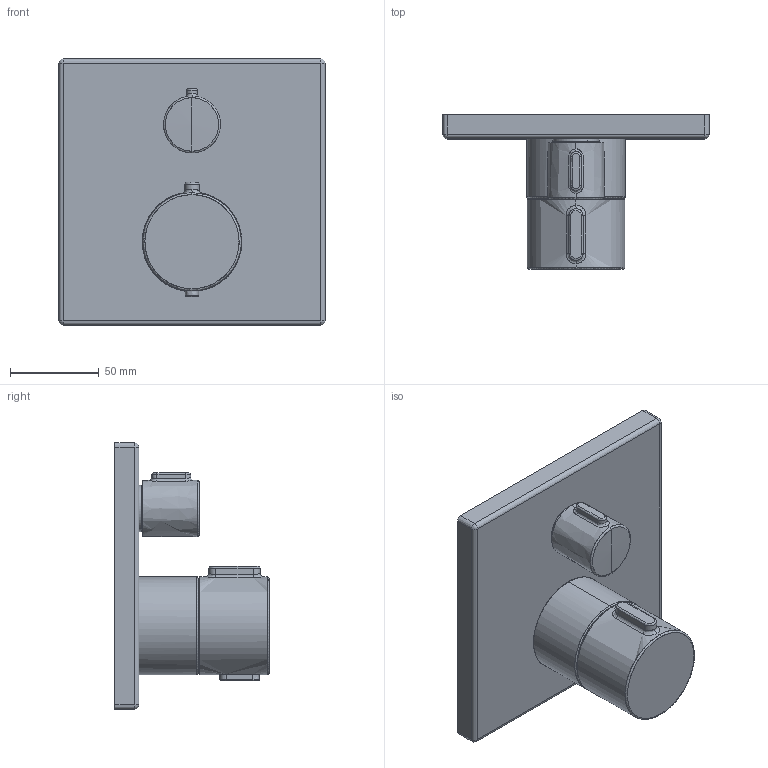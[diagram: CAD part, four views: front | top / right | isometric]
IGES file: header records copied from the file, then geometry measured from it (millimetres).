
Global section: file name: d:\users\matthias.isele\Desktop\TH420001\TH4200013010_TH4200015010\3D\TH4200013010_TH4200015010.igs; native system: Rhinoceros ( Sep 13 2016 ); preprocessor: Trout Lake IGES 012 Sep 13 2016; date: 230207.064806; units: millimetre
Bounding box: 150 x 86.8 x 150 mm (x, y, z)
Surface area: 63244.7 mm2 (no closed solid volume)
Topology: 0 solids, 0 shells, 106 faces, 550 edges, 544 vertices
Faces by surface type: bspline 106
